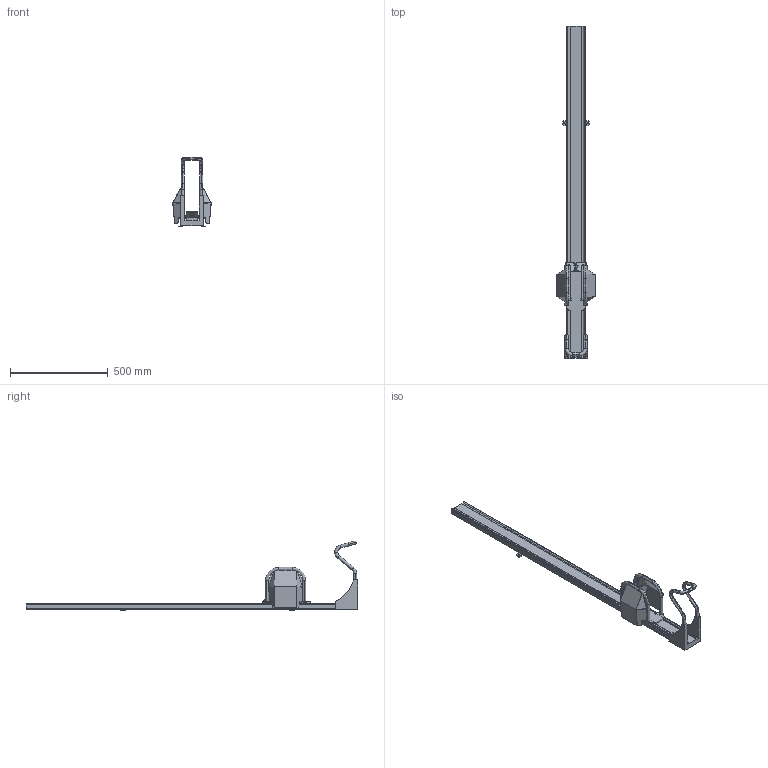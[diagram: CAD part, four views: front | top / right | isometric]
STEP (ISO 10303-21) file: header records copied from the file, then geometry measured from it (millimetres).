
FILE_DESCRIPTION (( 'STEP AP214' ), '1' );
FILE_NAME ('P14_bulk.STEP', '2023-03-31T11:10:39', ( '' ), ( '' ), 'SwSTEP 2.0', 'SolidWorks 2021', '' );
FILE_SCHEMA (( 'AUTOMOTIVE_DESIGN' ));
Length unit declared in the file: millimetre
Products named in the file (1): P14_bulk
Bounding box: 197.41 x 1700 x 358.16 mm (x, y, z)
Volume: 5459577.5 mm3; surface area: 823828.9 mm2
Topology: 1 solids, 1 shells, 775 faces, 2040 edges, 1276 vertices
Faces by surface type: cylinder 353, plane 330, torus 48, bspline 44
Entity records: 26408 total; most frequent: CARTESIAN_POINT 5826, ORIENTED_EDGE 4080, DIRECTION 4044, EDGE_CURVE 2040, AXIS2_PLACEMENT_3D 1464, VERTEX_POINT 1276, VECTOR 1116, LINE 1116
